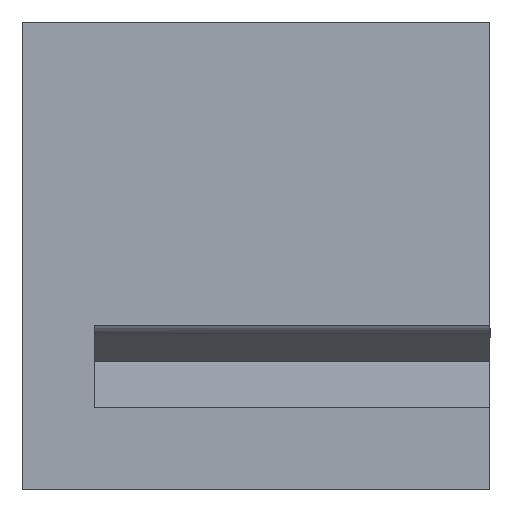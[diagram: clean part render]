
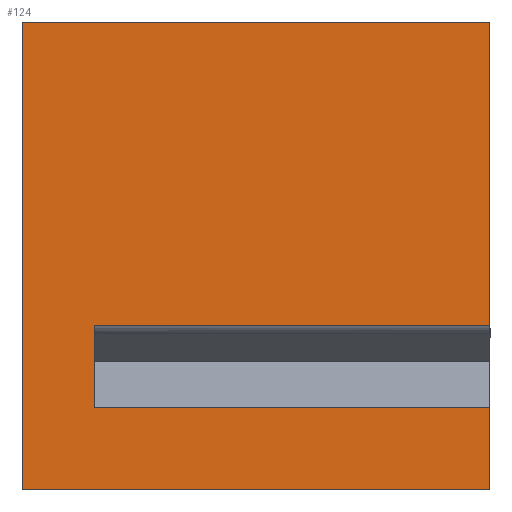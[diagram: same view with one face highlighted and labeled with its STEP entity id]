
A CAD part, left-side view. The second image highlights one B-rep face of the part: STEP entity #124.
In plain terms, the highlighted planar face has unit normal (-1, 0, 0).
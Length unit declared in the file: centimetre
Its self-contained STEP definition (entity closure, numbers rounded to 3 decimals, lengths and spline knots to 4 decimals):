
#10 = DIRECTION ( 'NONE',  ( 1., 0., 0. ) ) ;
#23 = PLANE ( 'NONE',  #946 ) ;
#29 = CARTESIAN_POINT ( 'NONE',  ( 0., 844.1967, 175.3203 ) ) ;
#53 = CARTESIAN_POINT ( 'NONE',  ( 0., 1000., 1000. ) ) ;
#71 = ORIENTED_EDGE ( 'NONE', *, *, #195, .F. ) ;
#104 = CARTESIAN_POINT ( 'NONE',  ( 0., 1000., 0. ) ) ;
#109 = VECTOR ( 'NONE', #551, 100. ) ;
#115 = LINE ( 'NONE', #779, #109 ) ;
#124 = ADVANCED_FACE ( 'NONE', ( #596 ), #23, .F. ) ;
#132 = LINE ( 'NONE', #433, #458 ) ;
#139 = VECTOR ( 'NONE', #429, 100. ) ;
#154 = ORIENTED_EDGE ( 'NONE', *, *, #715, .T. ) ;
#161 = CARTESIAN_POINT ( 'NONE',  ( 0., 0., 1000. ) ) ;
#162 = EDGE_CURVE ( 'NONE', #302, #623, #311, .T. ) ;
#173 = DIRECTION ( 'NONE',  ( 0., -1., 0. ) ) ;
#195 = EDGE_CURVE ( 'NONE', #667, #302, #298, .T. ) ;
#231 = CARTESIAN_POINT ( 'NONE',  ( 0., 0., 1000. ) ) ;
#243 = DIRECTION ( 'NONE',  ( 0., 0., -1. ) ) ;
#251 = CARTESIAN_POINT ( 'NONE',  ( 0., 1000., 0. ) ) ;
#257 = EDGE_CURVE ( 'NONE', #516, #383, #353, .T. ) ;
#298 = LINE ( 'NONE', #29, #935 ) ;
#302 = VERTEX_POINT ( 'NONE', #788 ) ;
#311 = LINE ( 'NONE', #231, #654 ) ;
#320 = ORIENTED_EDGE ( 'NONE', *, *, #355, .T. ) ;
#336 = VECTOR ( 'NONE', #568, 100. ) ;
#353 = LINE ( 'NONE', #864, #139 ) ;
#355 = EDGE_CURVE ( 'NONE', #516, #766, #506, .T. ) ;
#365 = EDGE_CURVE ( 'NONE', #451, #667, #132, .T. ) ;
#376 = ORIENTED_EDGE ( 'NONE', *, *, #726, .T. ) ;
#383 = VERTEX_POINT ( 'NONE', #811 ) ;
#397 = CARTESIAN_POINT ( 'NONE',  ( 0., 844.1967, 175.3203 ) ) ;
#429 = DIRECTION ( 'NONE',  ( 0., -1., 0. ) ) ;
#433 = CARTESIAN_POINT ( 'NONE',  ( 0., 844.1967, 1000. ) ) ;
#451 = VERTEX_POINT ( 'NONE', #655 ) ;
#458 = VECTOR ( 'NONE', #722, 100. ) ;
#506 = LINE ( 'NONE', #53, #336 ) ;
#516 = VERTEX_POINT ( 'NONE', #878 ) ;
#531 = CARTESIAN_POINT ( 'NONE',  ( 0., 0., 351.1611 ) ) ;
#533 = VERTEX_POINT ( 'NONE', #531 ) ;
#541 = LINE ( 'NONE', #161, #817 ) ;
#551 = DIRECTION ( 'NONE',  ( 0., -1., 0. ) ) ;
#568 = DIRECTION ( 'NONE',  ( 0., 0., -1. ) ) ;
#582 = EDGE_CURVE ( 'NONE', #383, #533, #541, .T. ) ;
#596 = FACE_OUTER_BOUND ( 'NONE', #879, .T. ) ;
#601 = DIRECTION ( 'NONE',  ( 0., 0., -1. ) ) ;
#614 = LINE ( 'NONE', #104, #697 ) ;
#623 = VERTEX_POINT ( 'NONE', #762 ) ;
#642 = ORIENTED_EDGE ( 'NONE', *, *, #257, .F. ) ;
#654 = VECTOR ( 'NONE', #601, 100. ) ;
#655 = CARTESIAN_POINT ( 'NONE',  ( 0., 844.1967, 351.1611 ) ) ;
#665 = CARTESIAN_POINT ( 'NONE',  ( 0., 1000., 1000. ) ) ;
#667 = VERTEX_POINT ( 'NONE', #397 ) ;
#697 = VECTOR ( 'NONE', #173, 100. ) ;
#715 = EDGE_CURVE ( 'NONE', #766, #623, #614, .T. ) ;
#722 = DIRECTION ( 'NONE',  ( 0., 0., -1. ) ) ;
#726 = EDGE_CURVE ( 'NONE', #451, #533, #115, .T. ) ;
#762 = CARTESIAN_POINT ( 'NONE',  ( 0., 0., 0. ) ) ;
#766 = VERTEX_POINT ( 'NONE', #251 ) ;
#779 = CARTESIAN_POINT ( 'NONE',  ( 0., 844.1967, 351.1611 ) ) ;
#788 = CARTESIAN_POINT ( 'NONE',  ( 0., 0., 175.3203 ) ) ;
#811 = CARTESIAN_POINT ( 'NONE',  ( 0., 0., 1000. ) ) ;
#817 = VECTOR ( 'NONE', #243, 100. ) ;
#837 = DIRECTION ( 'NONE',  ( 0., -1., 0. ) ) ;
#864 = CARTESIAN_POINT ( 'NONE',  ( 0., 1000., 1000. ) ) ;
#878 = CARTESIAN_POINT ( 'NONE',  ( 0., 1000., 1000. ) ) ;
#879 = EDGE_LOOP ( 'NONE', ( #916, #376, #937, #642, #320, #154, #954, #71 ) ) ;
#901 = DIRECTION ( 'NONE',  ( 0., 0., -1. ) ) ;
#916 = ORIENTED_EDGE ( 'NONE', *, *, #365, .F. ) ;
#935 = VECTOR ( 'NONE', #837, 100. ) ;
#937 = ORIENTED_EDGE ( 'NONE', *, *, #582, .F. ) ;
#946 = AXIS2_PLACEMENT_3D ( 'NONE', #665, #10, #901 ) ;
#954 = ORIENTED_EDGE ( 'NONE', *, *, #162, .F. ) ;
